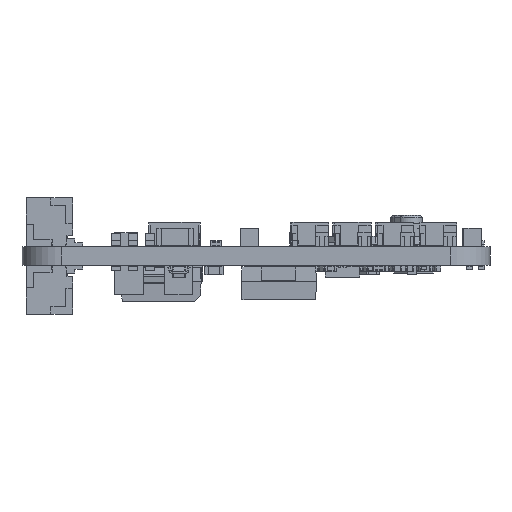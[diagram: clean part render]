
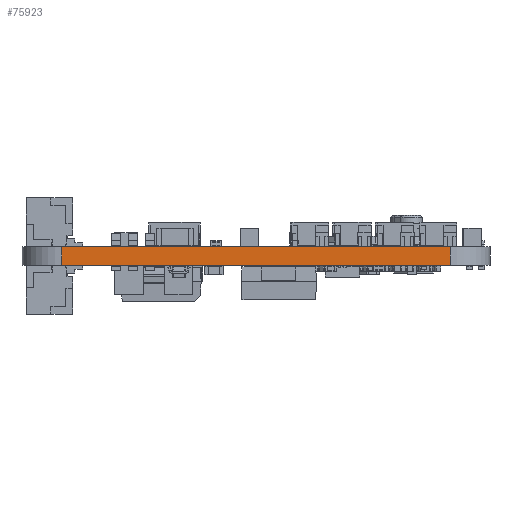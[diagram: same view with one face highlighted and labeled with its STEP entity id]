
A CAD part, left-side view. The second image highlights one B-rep face of the part: STEP entity #75923.
In plain terms, the highlighted planar face has unit normal (-1, 0, 0).
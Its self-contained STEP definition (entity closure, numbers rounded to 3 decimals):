
#75000 = VERTEX_POINT('',#75001);
#75001 = CARTESIAN_POINT('',(-30.,17.,0.));
#75008 = EDGE_CURVE('',#75009,#75000,#75011,.T.);
#75009 = VERTEX_POINT('',#75010);
#75010 = CARTESIAN_POINT('',(-30.,-17.,0.));
#75011 = LINE('',#75012,#75013);
#75012 = CARTESIAN_POINT('',(-30.,-17.,0.));
#75013 = VECTOR('',#75014,1.);
#75014 = DIRECTION('',(0.,1.,0.));
#75448 = VERTEX_POINT('',#75449);
#75449 = CARTESIAN_POINT('',(-30.,17.,1.6));
#75456 = EDGE_CURVE('',#75457,#75448,#75459,.T.);
#75457 = VERTEX_POINT('',#75458);
#75458 = CARTESIAN_POINT('',(-30.,-17.,1.6));
#75459 = LINE('',#75460,#75461);
#75460 = CARTESIAN_POINT('',(-30.,-17.,1.6));
#75461 = VECTOR('',#75462,1.);
#75462 = DIRECTION('',(0.,1.,0.));
#75893 = EDGE_CURVE('',#75000,#75448,#75894,.T.);
#75894 = LINE('',#75895,#75896);
#75895 = CARTESIAN_POINT('',(-30.,17.,0.));
#75896 = VECTOR('',#75897,1.);
#75897 = DIRECTION('',(0.,0.,1.));
#75923 = ADVANCED_FACE('',(#75924),#75935,.T.);
#75924 = FACE_BOUND('',#75925,.T.);
#75925 = EDGE_LOOP('',(#75926,#75932,#75933,#75934));
#75926 = ORIENTED_EDGE('',*,*,#75927,.T.);
#75927 = EDGE_CURVE('',#75009,#75457,#75928,.T.);
#75928 = LINE('',#75929,#75930);
#75929 = CARTESIAN_POINT('',(-30.,-17.,0.));
#75930 = VECTOR('',#75931,1.);
#75931 = DIRECTION('',(0.,0.,1.));
#75932 = ORIENTED_EDGE('',*,*,#75456,.T.);
#75933 = ORIENTED_EDGE('',*,*,#75893,.F.);
#75934 = ORIENTED_EDGE('',*,*,#75008,.F.);
#75935 = PLANE('',#75936);
#75936 = AXIS2_PLACEMENT_3D('',#75937,#75938,#75939);
#75937 = CARTESIAN_POINT('',(-30.,-17.,0.));
#75938 = DIRECTION('',(-1.,0.,0.));
#75939 = DIRECTION('',(0.,1.,0.));
